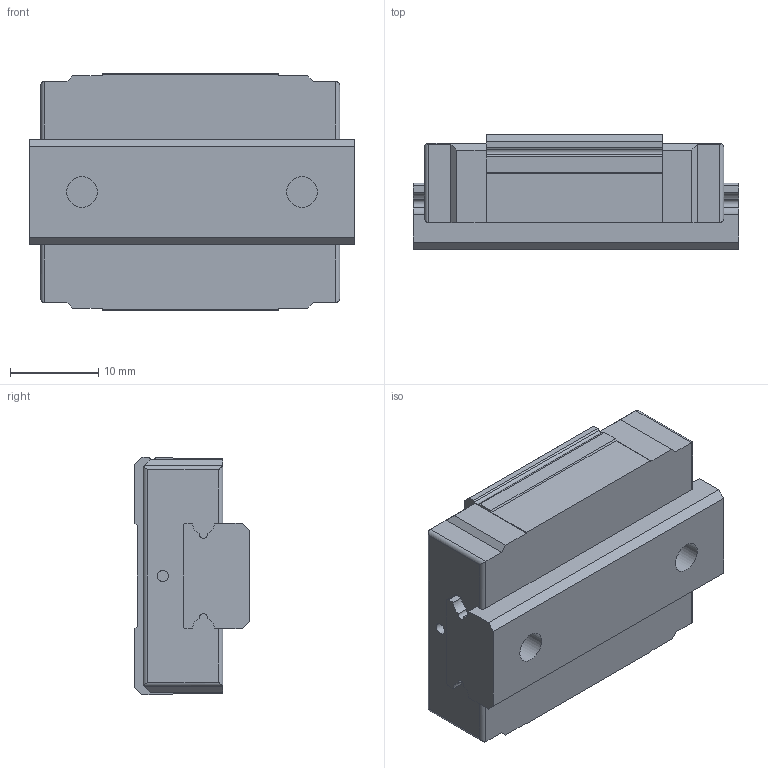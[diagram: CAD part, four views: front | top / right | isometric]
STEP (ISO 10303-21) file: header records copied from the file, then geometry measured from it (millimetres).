
FILE_DESCRIPTION( ( 'STEP AP214' ), '1' );
FILE_NAME( 'G:/品牌/AZI工艺/滑块/GGC/GGC12BA.stp', '2024-01-19T03:33:51', ( 'License CC BY-ND 4.0' ), ( 'CADENAS' ), ' ', 'PARTsolutions', ' ' );
FILE_SCHEMA( ( 'AUTOMOTIVE_DESIGN { 1 0 10303 214 1 1 1 1 }' ) );
Length unit declared in the file: millimetre
Products named in the file (3): ZCE13-37-(18.3-0-0); _ZTCE13-37; _ZZCE13
Assembly tree (2 placements, depth 2):
  ZCE13-37-(18.3-0-0)
    _ZTCE13-37
    _ZZCE13
Bounding box: 37 x 13 x 27 mm (x, y, z)
Volume: 9578.1 mm3; surface area: 5339.9 mm2
Topology: 2 solids, 2 shells, 104 faces, 276 edges, 180 vertices
Faces by surface type: plane 57, cylinder 39, cone 8
Full cylindrical faces by diameter (mm): 1.3 x2, 2.459 x4, 3.5 x2, 6 x2
Entity records: 4010 total; most frequent: DIRECTION 550, CARTESIAN_POINT 541, ORIENTED_EDGE 508, EDGE_CURVE 254, AXIS2_PLACEMENT_3D 189, VERTEX_POINT 180, LINE 172, VECTOR 172
